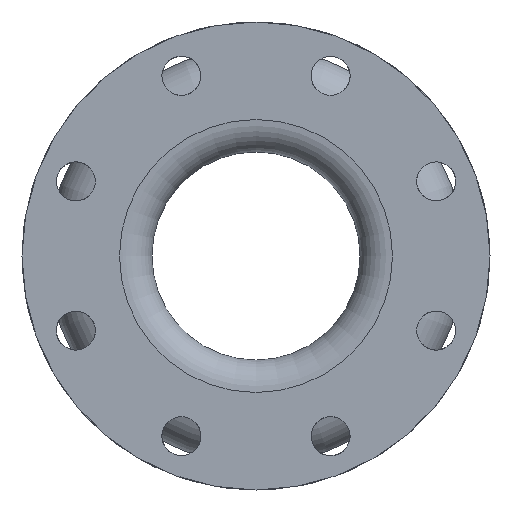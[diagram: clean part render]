
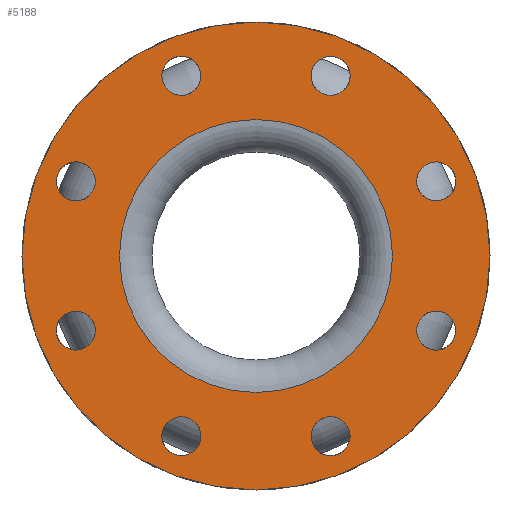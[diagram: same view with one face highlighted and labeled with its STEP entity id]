
A CAD part, left-side view. The second image highlights one B-rep face of the part: STEP entity #5188.
In plain terms, the highlighted planar face has unit normal (-1, 0, 0).
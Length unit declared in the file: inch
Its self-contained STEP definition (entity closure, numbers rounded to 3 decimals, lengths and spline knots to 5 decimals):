
#93=FACE_BOUND('',#935,.T.);
#94=FACE_BOUND('',#936,.T.);
#95=FACE_BOUND('',#937,.T.);
#96=FACE_BOUND('',#938,.T.);
#97=FACE_BOUND('',#939,.T.);
#98=FACE_BOUND('',#940,.T.);
#99=FACE_BOUND('',#941,.T.);
#100=FACE_BOUND('',#942,.T.);
#101=FACE_BOUND('',#943,.T.);
#567=FACE_OUTER_BOUND('',#934,.T.);
#934=EDGE_LOOP('',(#3948));
#935=EDGE_LOOP('',(#3949));
#936=EDGE_LOOP('',(#3950));
#937=EDGE_LOOP('',(#3951));
#938=EDGE_LOOP('',(#3952));
#939=EDGE_LOOP('',(#3953));
#940=EDGE_LOOP('',(#3954));
#941=EDGE_LOOP('',(#3955));
#942=EDGE_LOOP('',(#3956));
#943=EDGE_LOOP('',(#3957));
#1365=CIRCLE('',#5653,0.375);
#1367=CIRCLE('',#5656,0.375);
#1369=CIRCLE('',#5659,0.375);
#1371=CIRCLE('',#5662,0.375);
#1373=CIRCLE('',#5665,0.375);
#1375=CIRCLE('',#5668,0.375);
#1377=CIRCLE('',#5671,0.375);
#1379=CIRCLE('',#5674,0.375);
#1411=CIRCLE('',#5729,2.625);
#1412=CIRCLE('',#5731,4.5);
#2293=VERTEX_POINT('',#8574);
#2295=VERTEX_POINT('',#8579);
#2297=VERTEX_POINT('',#8584);
#2299=VERTEX_POINT('',#8589);
#2301=VERTEX_POINT('',#8594);
#2303=VERTEX_POINT('',#8599);
#2305=VERTEX_POINT('',#8604);
#2307=VERTEX_POINT('',#8609);
#2339=VERTEX_POINT('',#8696);
#2340=VERTEX_POINT('',#8699);
#2883=EDGE_CURVE('',#2293,#2293,#1365,.T.);
#2885=EDGE_CURVE('',#2295,#2295,#1367,.T.);
#2887=EDGE_CURVE('',#2297,#2297,#1369,.T.);
#2889=EDGE_CURVE('',#2299,#2299,#1371,.T.);
#2891=EDGE_CURVE('',#2301,#2301,#1373,.T.);
#2893=EDGE_CURVE('',#2303,#2303,#1375,.T.);
#2895=EDGE_CURVE('',#2305,#2305,#1377,.T.);
#2897=EDGE_CURVE('',#2307,#2307,#1379,.T.);
#2929=EDGE_CURVE('',#2339,#2339,#1411,.T.);
#2930=EDGE_CURVE('',#2340,#2340,#1412,.T.);
#3948=ORIENTED_EDGE('',*,*,#2930,.F.);
#3949=ORIENTED_EDGE('',*,*,#2929,.T.);
#3950=ORIENTED_EDGE('',*,*,#2883,.T.);
#3951=ORIENTED_EDGE('',*,*,#2885,.T.);
#3952=ORIENTED_EDGE('',*,*,#2887,.T.);
#3953=ORIENTED_EDGE('',*,*,#2889,.T.);
#3954=ORIENTED_EDGE('',*,*,#2891,.T.);
#3955=ORIENTED_EDGE('',*,*,#2893,.T.);
#3956=ORIENTED_EDGE('',*,*,#2895,.T.);
#3957=ORIENTED_EDGE('',*,*,#2897,.T.);
#4690=PLANE('',#5730);
#5188=ADVANCED_FACE('',(#567,#93,#94,#95,#96,#97,#98,#99,#100,#101),#4690,
 .T.);
#5653=AXIS2_PLACEMENT_3D('',#8575,#6834,#6835);
#5656=AXIS2_PLACEMENT_3D('',#8580,#6840,#6841);
#5659=AXIS2_PLACEMENT_3D('',#8585,#6846,#6847);
#5662=AXIS2_PLACEMENT_3D('',#8590,#6852,#6853);
#5665=AXIS2_PLACEMENT_3D('',#8595,#6858,#6859);
#5668=AXIS2_PLACEMENT_3D('',#8600,#6864,#6865);
#5671=AXIS2_PLACEMENT_3D('',#8605,#6870,#6871);
#5674=AXIS2_PLACEMENT_3D('',#8610,#6876,#6877);
#5729=AXIS2_PLACEMENT_3D('',#8697,#6986,#6987);
#5730=AXIS2_PLACEMENT_3D('',#8698,#6988,#6989);
#5731=AXIS2_PLACEMENT_3D('',#8700,#6990,#6991);
#6834=DIRECTION('center_axis',(1.,0.,0.));
#6835=DIRECTION('ref_axis',(0.,-0.707,0.707));
#6840=DIRECTION('center_axis',(1.,0.,0.));
#6841=DIRECTION('ref_axis',(0.,0.,
1.));
#6846=DIRECTION('center_axis',(1.,0.,0.));
#6847=DIRECTION('ref_axis',(0.,0.707,0.707));
#6852=DIRECTION('center_axis',(1.,0.,0.));
#6853=DIRECTION('ref_axis',(0.,1.,0.));
#6858=DIRECTION('center_axis',(1.,0.,0.));
#6859=DIRECTION('ref_axis',(0.,0.707,-0.707));
#6864=DIRECTION('center_axis',(1.,0.,0.));
#6865=DIRECTION('ref_axis',(0.,0.,
-1.));
#6870=DIRECTION('center_axis',(1.,0.,0.));
#6871=DIRECTION('ref_axis',(0.,-0.707,-0.707));
#6876=DIRECTION('center_axis',(1.,0.,0.));
#6877=DIRECTION('ref_axis',(0.,-1.,0.));
#6986=DIRECTION('center_axis',(1.,0.,0.));
#6987=DIRECTION('ref_axis',(0.,0.,-1.));
#6988=DIRECTION('center_axis',(-1.,0.,0.));
#6989=DIRECTION('ref_axis',(0.,0.,1.));
#6990=DIRECTION('center_axis',(1.,0.,0.));
#6991=DIRECTION('ref_axis',(0.,0.,-1.));
#8574=CARTESIAN_POINT('',(-7.,1.70023,-3.72971));
#8575=CARTESIAN_POINT('Origin',(-7.,1.43506,-3.46455));
#8579=CARTESIAN_POINT('',(-7.,-1.43506,-3.83955));
#8580=CARTESIAN_POINT('Origin',(-7.,-1.43506,-3.46455));
#8584=CARTESIAN_POINT('',(-7.,-3.72971,-1.70023));
#8585=CARTESIAN_POINT('Origin',(-7.,-3.46455,-1.43506));
#8589=CARTESIAN_POINT('',(-7.,-3.83955,1.43506));
#8590=CARTESIAN_POINT('Origin',(-7.,-3.46455,1.43506));
#8594=CARTESIAN_POINT('',(-7.,-1.70023,3.72971));
#8595=CARTESIAN_POINT('Origin',(-7.,-1.43506,3.46455));
#8599=CARTESIAN_POINT('',(-7.,1.43506,3.83955));
#8600=CARTESIAN_POINT('Origin',(-7.,1.43506,3.46455));
#8604=CARTESIAN_POINT('',(-7.,3.72971,1.70023));
#8605=CARTESIAN_POINT('Origin',(-7.,3.46455,1.43506));
#8609=CARTESIAN_POINT('',(-7.,3.83955,-1.43506));
#8610=CARTESIAN_POINT('Origin',(-7.,3.46455,-1.43506));
#8696=CARTESIAN_POINT('',(-7.,2.625,0.));
#8697=CARTESIAN_POINT('Origin',(-7.,0.,0.));
#8698=CARTESIAN_POINT('Origin',(-7.,4.5,0.));
#8699=CARTESIAN_POINT('',(-7.,4.5,0.));
#8700=CARTESIAN_POINT('Origin',(-7.,0.,0.));
